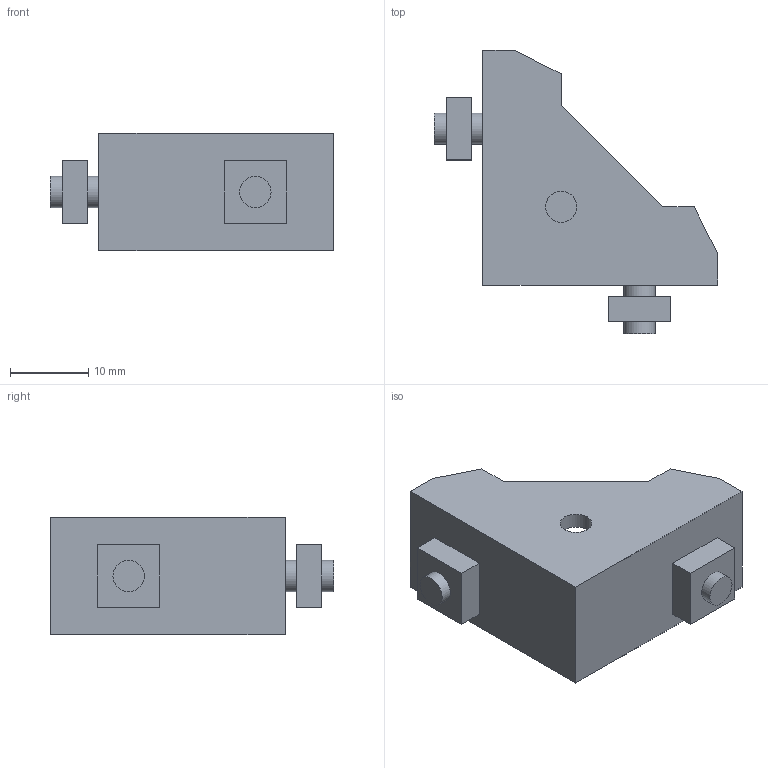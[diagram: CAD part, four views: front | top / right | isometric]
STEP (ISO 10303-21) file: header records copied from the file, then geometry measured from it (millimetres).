
FILE_DESCRIPTION((''),'2;1');
FILE_NAME('C:\Documents and Settings\AMS8\デスクトップ\2013from西村作業用\既存3D\M4ブラケット差分\ABLD-20-4-T\ABLD-20-4-T.stp','2013-08-12T09:51:31',('AMS8'),(''),'Autodesk Inventor 2008','Autodesk Inventor 2008','');
FILE_SCHEMA(('AUTOMOTIVE_DESIGN { 1 0 10303 214 1 1 1 1 }'));
Length unit declared in the file: millimetre
Products named in the file (6): ABLD-20-4-T; ABLD-20-4-T1; ABLD-20-4-T2; ABLD-20-4-T3; ABLD-20-4-T4; ABLD-20-4-T5
Assembly tree (5 placements, depth 2):
  ABLD-20-4-T
    ABLD-20-4-T1
    ABLD-20-4-T2
    ABLD-20-4-T3
    ABLD-20-4-T4
    ABLD-20-4-T5
Bounding box: 36.2 x 36.2 x 15 mm (x, y, z)
Volume: 5646.7 mm3; surface area: 5020.6 mm2
Topology: 5 solids, 5 shells, 65 faces, 143 edges, 94 vertices
Faces by surface type: plane 54, cylinder 11
Full cylindrical faces by diameter (mm): 4 x5, 4.3 x2, 5 x2, 10 x2
Entity records: 1904 total; most frequent: DIRECTION 306, CARTESIAN_POINT 302, ORIENTED_EDGE 264, EDGE_CURVE 132, VECTOR 110, LINE 110, AXIS2_PLACEMENT_3D 98, VERTEX_POINT 94
